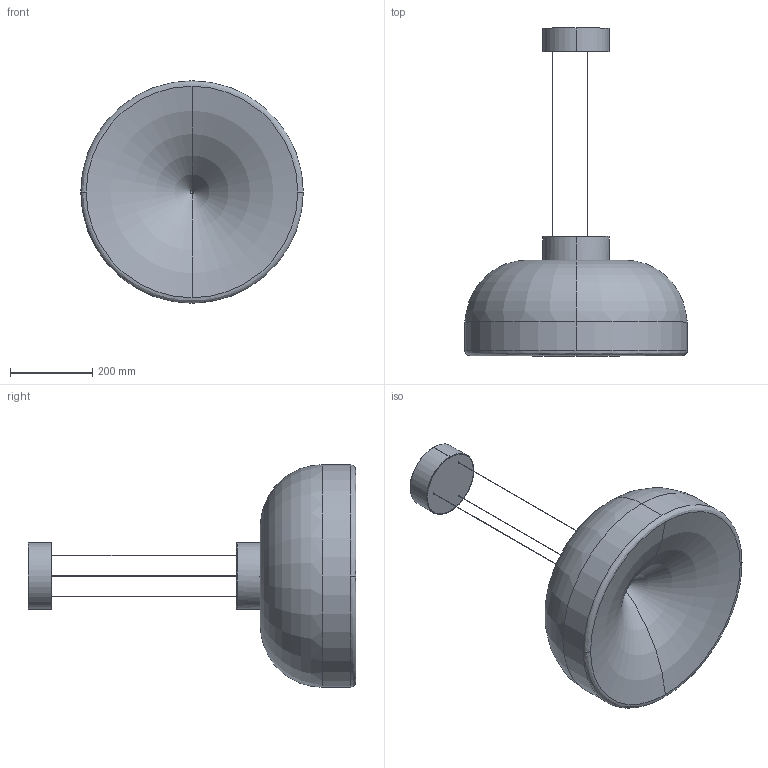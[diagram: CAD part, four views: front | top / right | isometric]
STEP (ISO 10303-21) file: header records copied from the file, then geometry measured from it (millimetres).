
FILE_DESCRIPTION (( 'STEP AP203' ), '1' );
FILE_NAME ('Aella_S_EU.STEP', '2018-01-15T17:02:27', ( '' ), ( '' ), 'SwSTEP 2.0', 'SolidWorks 2016', '' );
FILE_SCHEMA (( 'CONFIG_CONTROL_DESIGN' ));
Length unit declared in the file: millimetre
Products named in the file (1): Aella_S_EU
Bounding box: 540 x 795.71 x 540 mm (x, y, z)
Volume: 3856819.7 mm3; surface area: 1724651.2 mm2
Topology: 8 solids, 8 shells, 188 faces, 483 edges, 315 vertices
Faces by surface type: cylinder 83, plane 57, bspline 30, cone 10, torus 8
Entity records: 9378 total; most frequent: CARTESIAN_POINT 4701, DIRECTION 961, ORIENTED_EDGE 954, EDGE_CURVE 477, AXIS2_PLACEMENT_3D 385, VERTEX_POINT 315, EDGE_LOOP 250, CIRCLE 226
